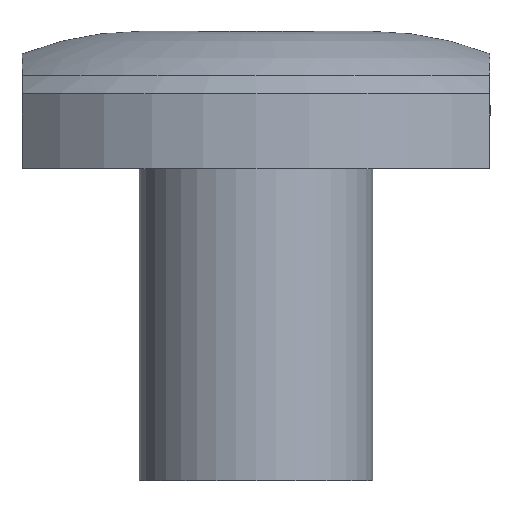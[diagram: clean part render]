
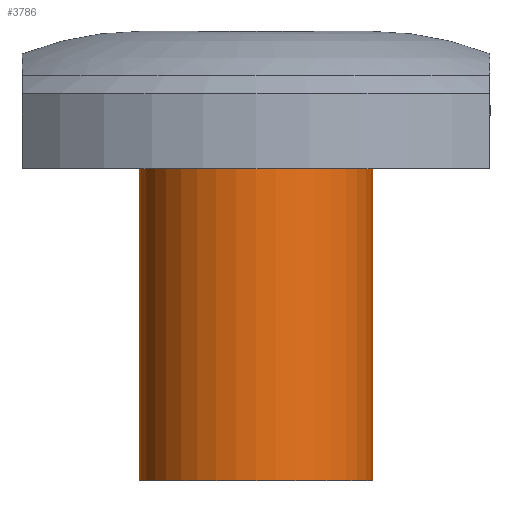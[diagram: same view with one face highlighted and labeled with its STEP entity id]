
A CAD part, front view. The second image highlights one B-rep face of the part: STEP entity #3786.
In plain terms, the highlighted cylindrical face has radius 7.5 mm (diameter 15 mm), a partial arc.
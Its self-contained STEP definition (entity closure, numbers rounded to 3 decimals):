
#79 = DIRECTION ( 'NONE',  ( 0., 0., -1. ) ) ;
#376 = DIRECTION ( 'NONE',  ( -1., 0., 0. ) ) ;
#407 = CARTESIAN_POINT ( 'NONE',  ( 7.5, 0., 0. ) ) ;
#702 = VERTEX_POINT ( 'NONE', #1509 ) ;
#719 = DIRECTION ( 'NONE',  ( 1., 0., 0. ) ) ;
#746 = CARTESIAN_POINT ( 'NONE',  ( 0., 0., 20. ) ) ;
#774 = AXIS2_PLACEMENT_3D ( 'NONE', #4738, #4044, #719 ) ;
#813 = CARTESIAN_POINT ( 'NONE',  ( 7.5, 0., 20. ) ) ;
#924 = AXIS2_PLACEMENT_3D ( 'NONE', #3649, #1823, #1893 ) ;
#1023 = LINE ( 'NONE', #2503, #2774 ) ;
#1086 = ORIENTED_EDGE ( 'NONE', *, *, #3863, .F. ) ;
#1323 = EDGE_LOOP ( 'NONE', ( #1086, #2347, #4271, #3576 ) ) ;
#1493 = VERTEX_POINT ( 'NONE', #407 ) ;
#1507 = CYLINDRICAL_SURFACE ( 'NONE', #3841, 7.5 ) ;
#1509 = CARTESIAN_POINT ( 'NONE',  ( -7.5, 0., 20. ) ) ;
#1769 = CIRCLE ( 'NONE', #774, 7.5 ) ;
#1823 = DIRECTION ( 'NONE',  ( 0., 0., 1. ) ) ;
#1893 = DIRECTION ( 'NONE',  ( 1., 0., 0. ) ) ;
#1969 = CARTESIAN_POINT ( 'NONE',  ( 7.5, 0., 20. ) ) ;
#2217 = DIRECTION ( 'NONE',  ( 0., 0., -1. ) ) ;
#2347 = ORIENTED_EDGE ( 'NONE', *, *, #3388, .F. ) ;
#2390 = EDGE_CURVE ( 'NONE', #3170, #1493, #3155, .T. ) ;
#2503 = CARTESIAN_POINT ( 'NONE',  ( -7.5, 0., 20. ) ) ;
#2649 = LINE ( 'NONE', #813, #3241 ) ;
#2774 = VECTOR ( 'NONE', #2787, 1000. ) ;
#2787 = DIRECTION ( 'NONE',  ( 0., 0., -1. ) ) ;
#3031 = EDGE_CURVE ( 'NONE', #702, #3170, #1023, .T. ) ;
#3155 = CIRCLE ( 'NONE', #924, 7.5 ) ;
#3170 = VERTEX_POINT ( 'NONE', #4480 ) ;
#3213 = VERTEX_POINT ( 'NONE', #1969 ) ;
#3241 = VECTOR ( 'NONE', #79, 1000. ) ;
#3388 = EDGE_CURVE ( 'NONE', #702, #3213, #1769, .T. ) ;
#3576 = ORIENTED_EDGE ( 'NONE', *, *, #2390, .T. ) ;
#3649 = CARTESIAN_POINT ( 'NONE',  ( 0., 0., 0. ) ) ;
#3786 = ADVANCED_FACE ( 'NONE', ( #4047 ), #1507, .T. ) ;
#3841 = AXIS2_PLACEMENT_3D ( 'NONE', #746, #2217, #376 ) ;
#3863 = EDGE_CURVE ( 'NONE', #3213, #1493, #2649, .T. ) ;
#4044 = DIRECTION ( 'NONE',  ( 0., 0., 1. ) ) ;
#4047 = FACE_OUTER_BOUND ( 'NONE', #1323, .T. ) ;
#4271 = ORIENTED_EDGE ( 'NONE', *, *, #3031, .T. ) ;
#4480 = CARTESIAN_POINT ( 'NONE',  ( -7.5, 0., 0. ) ) ;
#4738 = CARTESIAN_POINT ( 'NONE',  ( 0., 0., 20. ) ) ;
